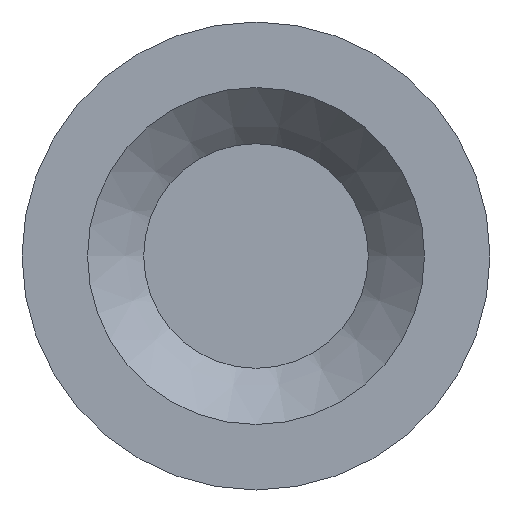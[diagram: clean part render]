
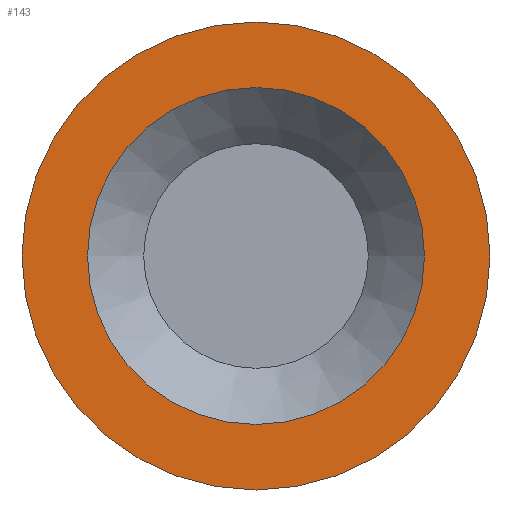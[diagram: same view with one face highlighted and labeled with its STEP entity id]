
A CAD part, left-side view. The second image highlights one B-rep face of the part: STEP entity #143.
In plain terms, the highlighted planar face has unit normal (-1, 0, 0).
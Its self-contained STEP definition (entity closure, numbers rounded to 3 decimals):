
#16=PLANE($,#169);
#33=FACE_BOUND($,#66,.T.);
#45=FACE_OUTER_BOUND($,#65,.T.);
#65=EDGE_LOOP($,(#125));
#66=EDGE_LOOP($,(#126));
#81=CIRCLE($,#168,1.143);
#82=CIRCLE($,#170,1.588);
#93=VERTEX_POINT($,#255);
#94=VERTEX_POINT($,#258);
#105=EDGE_CURVE($,#93,#93,#81,.T.);
#106=EDGE_CURVE($,#94,#94,#82,.T.);
#125=ORIENTED_EDGE($,*,*,#106,.F.);
#126=ORIENTED_EDGE($,*,*,#105,.T.);
#143=ADVANCED_FACE($,(#45,#33),#16,.T.);
#168=AXIS2_PLACEMENT_3D($,#256,#213,#214);
#169=AXIS2_PLACEMENT_3D($,#257,#215,#216);
#170=AXIS2_PLACEMENT_3D($,#259,#217,#218);
#213=DIRECTION('center_axis',(1.,0.,0.));
#214=DIRECTION('ref_axis',(0.,1.,0.));
#215=DIRECTION('center_axis',(-1.,0.,0.));
#216=DIRECTION('ref_axis',(0.,0.,1.));
#217=DIRECTION('center_axis',(1.,0.,0.));
#218=DIRECTION('ref_axis',(0.,1.,0.));
#255=CARTESIAN_POINT('',(4.16,1.143,0.));
#256=CARTESIAN_POINT('Origin',(4.16,0.,0.));
#257=CARTESIAN_POINT('Origin',(4.16,1.365,0.));
#258=CARTESIAN_POINT('',(4.16,1.588,0.));
#259=CARTESIAN_POINT('Origin',(4.16,0.,0.));
